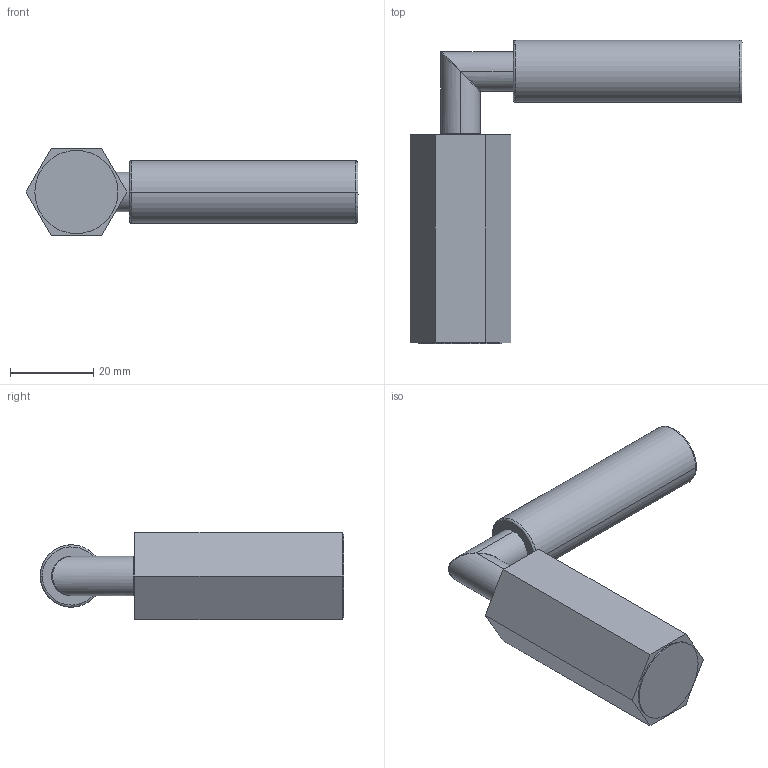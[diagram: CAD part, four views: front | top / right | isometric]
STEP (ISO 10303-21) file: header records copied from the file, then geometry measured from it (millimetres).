
FILE_DESCRIPTION((''),'2;1');
FILE_NAME('29000N5460000000_SW0001','2024-04-11T12:23:23',('matteo.follador'),(''),'CREO PARAMETRIC BY PTC INC, 2022424','CREO PARAMETRIC BY PTC INC, 2022424','');
FILE_SCHEMA(('AUTOMOTIVE_DESIGN { 1 0 10303 214 1 1 1 1 }'));
Length unit declared in the file: millimetre
Products named in the file (1): 29000N5460000000_SW0001
Bounding box: 79.87 x 73.05 x 21 mm (x, y, z)
Volume: 30876.1 mm3; surface area: 8121.3 mm2
Topology: 1 solids, 2 shells, 47 faces, 94 edges, 56 vertices
Faces by surface type: cylinder 19, plane 14, torus 8, cone 4, bspline 2
Entity records: 2544 total; most frequent: CARTESIAN_POINT 1054, DIRECTION 244, ORIENTED_EDGE 188, AXIS2_PLACEMENT_3D 101, EDGE_CURVE 94, VERTEX_POINT 56, EDGE_LOOP 54, FACE_OUTER_BOUND 47
